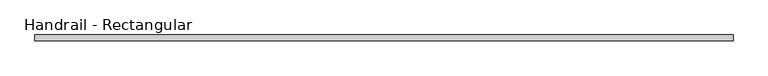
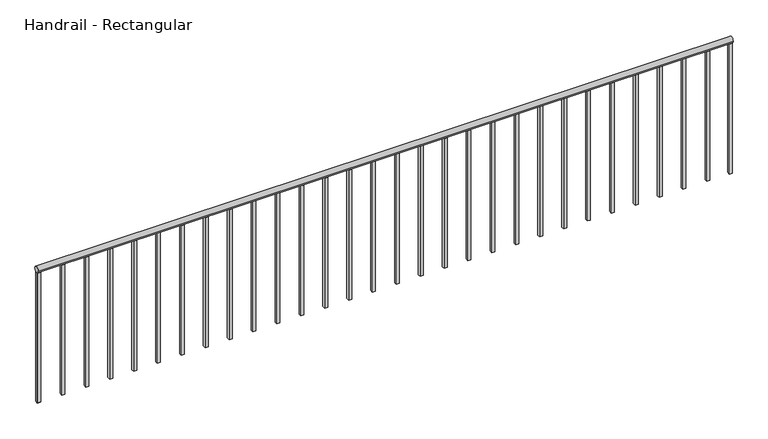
"""IFC4 building model written with IfcOpenShell, lengths in millimetres: railing geometry, Handrail - Rectangular."""

from ifc_helpers import new_model, si_unit, point, frame, frame_2d, origin, place, context, project, spatial, polyline, circle_curve, trimmed, segment, composite_curve, outline, extrude, source, transform, mapped, element, save


def handrail_rectangular_5462797e(model_context):
    return source(origin(), model_context, "Body", "SweptSolid", [
        extrude(outline(composite_curve([segment(trimmed(circle_curve(frame_2d((11944.8316867, 10039.35)), 19.05), [point((11963.8816867, 10039.35))], [point((11925.7816867, 10039.35))], False, "CARTESIAN"), True, "CONTINUOUS"), segment(trimmed(circle_curve(frame_2d((11944.8316867, 10039.35)), 19.05), [point((11925.7816867, 10039.35))], [point((11963.8816867, 10039.35))], False, "CARTESIAN"), True, "CONTINUOUS")], self_intersect=False)), frame((-30440.2839563, 0.0, 0.0), z_axis=(1.0, 0.0, 0.0), x_axis=(0.0, 1.0, 0.0)), (0.0, 0.0, 1.0), 4432.3),
        extrude(outline(polyline([(-30418.0589563, 11935.3066867), (-30437.1089563, 11935.3066867), (-30437.1089563, 11954.3566867), (-30418.0589563, 11954.3566867), (-30418.0589563, 11935.3066867)])), frame((0.0, 0.0, 9144.0), z_axis=(0.0, 0.0, 1.0), x_axis=(1.0, 0.0, 0.0)), (0.0, 0.0, 1.0), 876.3),
        extrude(outline(polyline([(-30265.6589563, 11935.3066867), (-30284.7089563, 11935.3066867), (-30284.7089563, 11954.3566867), (-30265.6589563, 11954.3566867), (-30265.6589563, 11935.3066867)])), frame((0.0, 0.0, 9144.0), z_axis=(0.0, 0.0, 1.0), x_axis=(1.0, 0.0, 0.0)), (0.0, 0.0, 1.0), 876.3),
        extrude(outline(polyline([(-30113.2589563, 11935.3066867), (-30132.3089563, 11935.3066867), (-30132.3089563, 11954.3566867), (-30113.2589563, 11954.3566867), (-30113.2589563, 11935.3066867)])), frame((0.0, 0.0, 9144.0), z_axis=(0.0, 0.0, 1.0), x_axis=(1.0, 0.0, 0.0)), (0.0, 0.0, 1.0), 876.3),
        extrude(outline(polyline([(-29960.8589563, 11935.3066867), (-29979.9089563, 11935.3066867), (-29979.9089563, 11954.3566867), (-29960.8589563, 11954.3566867), (-29960.8589563, 11935.3066867)])), frame((0.0, 0.0, 9144.0), z_axis=(0.0, 0.0, 1.0), x_axis=(1.0, 0.0, 0.0)), (0.0, 0.0, 1.0), 876.3),
        extrude(outline(polyline([(-29808.4589563, 11935.3066867), (-29827.5089563, 11935.3066867), (-29827.5089563, 11954.3566867), (-29808.4589563, 11954.3566867), (-29808.4589563, 11935.3066867)])), frame((0.0, 0.0, 9144.0), z_axis=(0.0, 0.0, 1.0), x_axis=(1.0, 0.0, 0.0)), (0.0, 0.0, 1.0), 876.3),
        extrude(outline(polyline([(-29656.0589563, 11935.3066867), (-29675.1089563, 11935.3066867), (-29675.1089563, 11954.3566867), (-29656.0589563, 11954.3566867), (-29656.0589563, 11935.3066867)])), frame((0.0, 0.0, 9144.0), z_axis=(0.0, 0.0, 1.0), x_axis=(1.0, 0.0, 0.0)), (0.0, 0.0, 1.0), 876.3),
        extrude(outline(polyline([(-29503.6589563, 11935.3066867), (-29522.7089563, 11935.3066867), (-29522.7089563, 11954.3566867), (-29503.6589563, 11954.3566867), (-29503.6589563, 11935.3066867)])), frame((0.0, 0.0, 9144.0), z_axis=(0.0, 0.0, 1.0), x_axis=(1.0, 0.0, 0.0)), (0.0, 0.0, 1.0), 876.3),
        extrude(outline(polyline([(-29351.2589563, 11935.3066867), (-29370.3089563, 11935.3066867), (-29370.3089563, 11954.3566867), (-29351.2589563, 11954.3566867), (-29351.2589563, 11935.3066867)])), frame((0.0, 0.0, 9144.0), z_axis=(0.0, 0.0, 1.0), x_axis=(1.0, 0.0, 0.0)), (0.0, 0.0, 1.0), 876.3),
        extrude(outline(polyline([(-29198.8589563, 11935.3066867), (-29217.9089563, 11935.3066867), (-29217.9089563, 11954.3566867), (-29198.8589563, 11954.3566867), (-29198.8589563, 11935.3066867)])), frame((0.0, 0.0, 9144.0), z_axis=(0.0, 0.0, 1.0), x_axis=(1.0, 0.0, 0.0)), (0.0, 0.0, 1.0), 876.3),
        extrude(outline(polyline([(-29046.4589563, 11935.3066867), (-29065.5089563, 11935.3066867), (-29065.5089563, 11954.3566867), (-29046.4589563, 11954.3566867), (-29046.4589563, 11935.3066867)])), frame((0.0, 0.0, 9144.0), z_axis=(0.0, 0.0, 1.0), x_axis=(1.0, 0.0, 0.0)), (0.0, 0.0, 1.0), 876.3),
        extrude(outline(polyline([(-28894.0589563, 11935.3066867), (-28913.1089563, 11935.3066867), (-28913.1089563, 11954.3566867), (-28894.0589563, 11954.3566867), (-28894.0589563, 11935.3066867)])), frame((0.0, 0.0, 9144.0), z_axis=(0.0, 0.0, 1.0), x_axis=(1.0, 0.0, 0.0)), (0.0, 0.0, 1.0), 876.3),
        extrude(outline(polyline([(-28741.6589563, 11935.3066867), (-28760.7089563, 11935.3066867), (-28760.7089563, 11954.3566867), (-28741.6589563, 11954.3566867), (-28741.6589563, 11935.3066867)])), frame((0.0, 0.0, 9144.0), z_axis=(0.0, 0.0, 1.0), x_axis=(1.0, 0.0, 0.0)), (0.0, 0.0, 1.0), 876.3),
        extrude(outline(polyline([(-28589.2589563, 11935.3066867), (-28608.3089563, 11935.3066867), (-28608.3089563, 11954.3566867), (-28589.2589563, 11954.3566867), (-28589.2589563, 11935.3066867)])), frame((0.0, 0.0, 9144.0), z_axis=(0.0, 0.0, 1.0), x_axis=(1.0, 0.0, 0.0)), (0.0, 0.0, 1.0), 876.3),
        extrude(outline(polyline([(-28436.8589563, 11935.3066867), (-28455.9089563, 11935.3066867), (-28455.9089563, 11954.3566867), (-28436.8589563, 11954.3566867), (-28436.8589563, 11935.3066867)])), frame((0.0, 0.0, 9144.0), z_axis=(0.0, 0.0, 1.0), x_axis=(1.0, 0.0, 0.0)), (0.0, 0.0, 1.0), 876.3),
        extrude(outline(polyline([(-28284.4589563, 11935.3066867), (-28303.5089563, 11935.3066867), (-28303.5089563, 11954.3566867), (-28284.4589563, 11954.3566867), (-28284.4589563, 11935.3066867)])), frame((0.0, 0.0, 9144.0), z_axis=(0.0, 0.0, 1.0), x_axis=(1.0, 0.0, 0.0)), (0.0, 0.0, 1.0), 876.3),
        extrude(outline(polyline([(-28132.0589563, 11935.3066867), (-28151.1089563, 11935.3066867), (-28151.1089563, 11954.3566867), (-28132.0589563, 11954.3566867), (-28132.0589563, 11935.3066867)])), frame((0.0, 0.0, 9144.0), z_axis=(0.0, 0.0, 1.0), x_axis=(1.0, 0.0, 0.0)), (0.0, 0.0, 1.0), 876.3),
        extrude(outline(polyline([(-27979.6589563, 11935.3066867), (-27998.7089563, 11935.3066867), (-27998.7089563, 11954.3566867), (-27979.6589563, 11954.3566867), (-27979.6589563, 11935.3066867)])), frame((0.0, 0.0, 9144.0), z_axis=(0.0, 0.0, 1.0), x_axis=(1.0, 0.0, 0.0)), (0.0, 0.0, 1.0), 876.3),
        extrude(outline(polyline([(-27827.2589563, 11935.3066867), (-27846.3089563, 11935.3066867), (-27846.3089563, 11954.3566867), (-27827.2589563, 11954.3566867), (-27827.2589563, 11935.3066867)])), frame((0.0, 0.0, 9144.0), z_axis=(0.0, 0.0, 1.0), x_axis=(1.0, 0.0, 0.0)), (0.0, 0.0, 1.0), 876.3),
        extrude(outline(polyline([(-27674.8589563, 11935.3066867), (-27693.9089563, 11935.3066867), (-27693.9089563, 11954.3566867), (-27674.8589563, 11954.3566867), (-27674.8589563, 11935.3066867)])), frame((0.0, 0.0, 9144.0), z_axis=(0.0, 0.0, 1.0), x_axis=(1.0, 0.0, 0.0)), (0.0, 0.0, 1.0), 876.3),
        extrude(outline(polyline([(-27522.4589563, 11935.3066867), (-27541.5089563, 11935.3066867), (-27541.5089563, 11954.3566867), (-27522.4589563, 11954.3566867), (-27522.4589563, 11935.3066867)])), frame((0.0, 0.0, 9144.0), z_axis=(0.0, 0.0, 1.0), x_axis=(1.0, 0.0, 0.0)), (0.0, 0.0, 1.0), 876.3),
        extrude(outline(polyline([(-27370.0589563, 11935.3066867), (-27389.1089563, 11935.3066867), (-27389.1089563, 11954.3566867), (-27370.0589563, 11954.3566867), (-27370.0589563, 11935.3066867)])), frame((0.0, 0.0, 9144.0), z_axis=(0.0, 0.0, 1.0), x_axis=(1.0, 0.0, 0.0)), (0.0, 0.0, 1.0), 876.3),
        extrude(outline(polyline([(-27217.6589563, 11935.3066867), (-27236.7089563, 11935.3066867), (-27236.7089563, 11954.3566867), (-27217.6589563, 11954.3566867), (-27217.6589563, 11935.3066867)])), frame((0.0, 0.0, 9144.0), z_axis=(0.0, 0.0, 1.0), x_axis=(1.0, 0.0, 0.0)), (0.0, 0.0, 1.0), 876.3),
        extrude(outline(polyline([(-27065.2589563, 11935.3066867), (-27084.3089563, 11935.3066867), (-27084.3089563, 11954.3566867), (-27065.2589563, 11954.3566867), (-27065.2589563, 11935.3066867)])), frame((0.0, 0.0, 9144.0), z_axis=(0.0, 0.0, 1.0), x_axis=(1.0, 0.0, 0.0)), (0.0, 0.0, 1.0), 876.3),
        extrude(outline(polyline([(-26912.8589563, 11935.3066867), (-26931.9089563, 11935.3066867), (-26931.9089563, 11954.3566867), (-26912.8589563, 11954.3566867), (-26912.8589563, 11935.3066867)])), frame((0.0, 0.0, 9144.0), z_axis=(0.0, 0.0, 1.0), x_axis=(1.0, 0.0, 0.0)), (0.0, 0.0, 1.0), 876.3),
        extrude(outline(polyline([(-26760.4589563, 11935.3066867), (-26779.5089563, 11935.3066867), (-26779.5089563, 11954.3566867), (-26760.4589563, 11954.3566867), (-26760.4589563, 11935.3066867)])), frame((0.0, 0.0, 9144.0), z_axis=(0.0, 0.0, 1.0), x_axis=(1.0, 0.0, 0.0)), (0.0, 0.0, 1.0), 876.3),
        extrude(outline(polyline([(-26608.0589563, 11935.3066867), (-26627.1089563, 11935.3066867), (-26627.1089563, 11954.3566867), (-26608.0589563, 11954.3566867), (-26608.0589563, 11935.3066867)])), frame((0.0, 0.0, 9144.0), z_axis=(0.0, 0.0, 1.0), x_axis=(1.0, 0.0, 0.0)), (0.0, 0.0, 1.0), 876.3),
        extrude(outline(polyline([(-26455.6589563, 11935.3066867), (-26474.7089563, 11935.3066867), (-26474.7089563, 11954.3566867), (-26455.6589563, 11954.3566867), (-26455.6589563, 11935.3066867)])), frame((0.0, 0.0, 9144.0), z_axis=(0.0, 0.0, 1.0), x_axis=(1.0, 0.0, 0.0)), (0.0, 0.0, 1.0), 876.3),
        extrude(outline(polyline([(-26303.2589563, 11935.3066867), (-26322.3089563, 11935.3066867), (-26322.3089563, 11954.3566867), (-26303.2589563, 11954.3566867), (-26303.2589563, 11935.3066867)])), frame((0.0, 0.0, 9144.0), z_axis=(0.0, 0.0, 1.0), x_axis=(1.0, 0.0, 0.0)), (0.0, 0.0, 1.0), 876.3),
        extrude(outline(polyline([(-26150.8589563, 11935.3066867), (-26169.9089563, 11935.3066867), (-26169.9089563, 11954.3566867), (-26150.8589563, 11954.3566867), (-26150.8589563, 11935.3066867)])), frame((0.0, 0.0, 9144.0), z_axis=(0.0, 0.0, 1.0), x_axis=(1.0, 0.0, 0.0)), (0.0, 0.0, 1.0), 876.3),
        extrude(outline(polyline([(-30421.2339563, 11935.3066867), (-30440.2839563, 11935.3066867), (-30440.2839563, 11954.3566867), (-30421.2339563, 11954.3566867), (-30421.2339563, 11935.3066867)])), frame((0.0, 0.0, 9144.0), z_axis=(0.0, 0.0, 1.0), x_axis=(1.0, 0.0, 0.0)), (0.0, 0.0, 1.0), 876.3),
        extrude(outline(polyline([(-26007.9839563, 11935.3066867), (-26027.0339563, 11935.3066867), (-26027.0339563, 11954.3566867), (-26007.9839563, 11954.3566867), (-26007.9839563, 11935.3066867)])), frame((0.0, 0.0, 9144.0), z_axis=(0.0, 0.0, 1.0), x_axis=(1.0, 0.0, 0.0)), (0.0, 0.0, 1.0), 876.3),
    ])


if __name__ == "__main__":
    model = new_model("IFC4")
    model_context = context("Model", 3, world=origin())
    ifc_project = project(units=[si_unit("LENGTHUNIT", "METRE", prefix="MILLI")], contexts=[model_context])
    site = spatial("IfcSite", under=ifc_project)
    building = spatial("IfcBuilding", under=site)
    placement = place(None, origin())
    handrail_rectangular_shape = handrail_rectangular_5462797e(model_context)
    element("IfcRailing", 1, ObjectType="Handrail - Rectangular", at=placement, inside=building, context=model_context, shape_type="MappedRepresentation", body=[
        mapped(handrail_rectangular_shape, transform((0.0, 0.0, 0.0), x_axis=(1.0, 0.0, 0.0), y_axis=(0.0, 1.0, 0.0), z_axis=(0.0, 0.0, 1.0))),
    ])
    save(model, "model.ifc")
